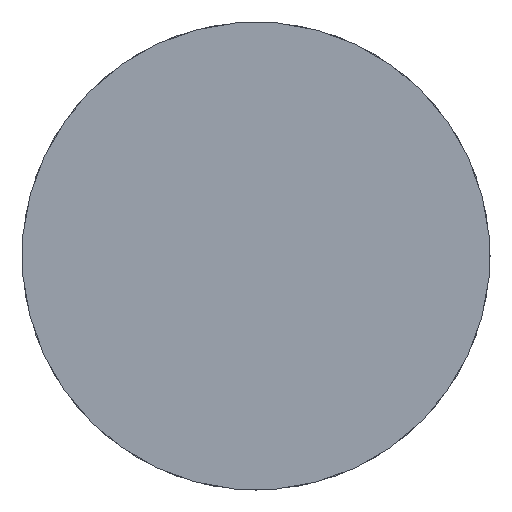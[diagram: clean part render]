
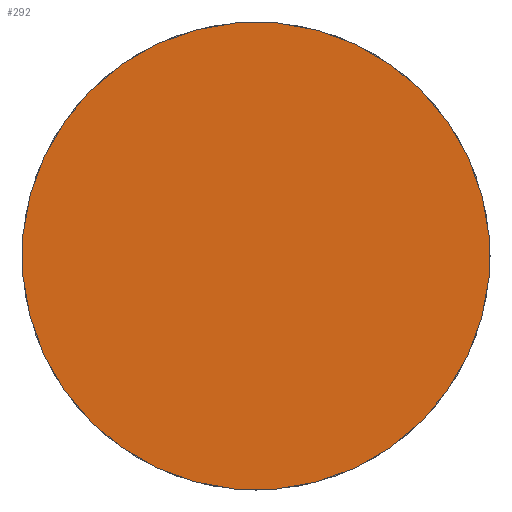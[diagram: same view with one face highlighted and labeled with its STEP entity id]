
A CAD part, left-side view. The second image highlights one B-rep face of the part: STEP entity #292.
In plain terms, the highlighted planar face has unit normal (-1, 0, 0).
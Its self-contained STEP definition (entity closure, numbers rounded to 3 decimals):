
#16 = ORIENTED_EDGE ( 'NONE', *, *, #503, .F. ) ;
#64 = VERTEX_POINT ( 'NONE', #321 ) ;
#78 = EDGE_CURVE ( 'NONE', #64, #466, #162, .T. ) ;
#79 = DIRECTION ( 'NONE',  ( -1., 0., 0. ) ) ;
#88 = CIRCLE ( 'NONE', #188, 3. ) ;
#95 = AXIS2_PLACEMENT_3D ( 'NONE', #248, #129, #436 ) ;
#120 = EDGE_LOOP ( 'NONE', ( #157, #16 ) ) ;
#129 = DIRECTION ( 'NONE',  ( 1., 0., 0. ) ) ;
#157 = ORIENTED_EDGE ( 'NONE', *, *, #78, .F. ) ;
#162 = CIRCLE ( 'NONE', #95, 3. ) ;
#164 = DIRECTION ( 'NONE',  ( 0., 0., -1. ) ) ;
#188 = AXIS2_PLACEMENT_3D ( 'NONE', #283, #398, #164 ) ;
#247 = CARTESIAN_POINT ( 'NONE',  ( -80., 0., 3. ) ) ;
#248 = CARTESIAN_POINT ( 'NONE',  ( -80., 0., 0. ) ) ;
#283 = CARTESIAN_POINT ( 'NONE',  ( -80., 0., 0. ) ) ;
#292 = ADVANCED_FACE ( 'NONE', ( #426 ), #316, .T. ) ;
#316 = PLANE ( 'NONE',  #456 ) ;
#321 = CARTESIAN_POINT ( 'NONE',  ( -80., 0., -3. ) ) ;
#387 = DIRECTION ( 'NONE',  ( 0., 0., 1. ) ) ;
#398 = DIRECTION ( 'NONE',  ( 1., 0., 0. ) ) ;
#426 = FACE_OUTER_BOUND ( 'NONE', #120, .T. ) ;
#436 = DIRECTION ( 'NONE',  ( 0., 0., -1. ) ) ;
#456 = AXIS2_PLACEMENT_3D ( 'NONE', #470, #79, #387 ) ;
#466 = VERTEX_POINT ( 'NONE', #247 ) ;
#470 = CARTESIAN_POINT ( 'NONE',  ( -80., 3., 0. ) ) ;
#503 = EDGE_CURVE ( 'NONE', #466, #64, #88, .T. ) ;
